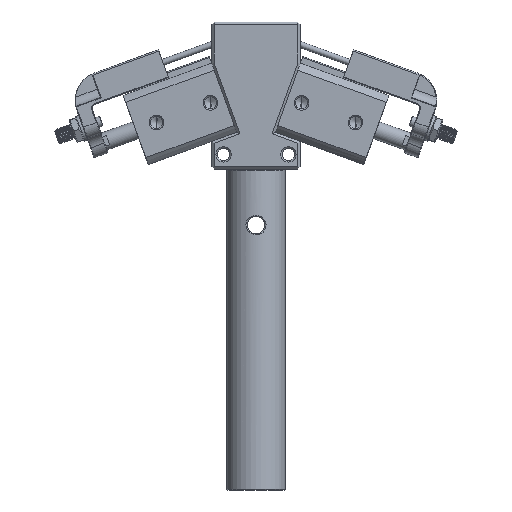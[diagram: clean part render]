
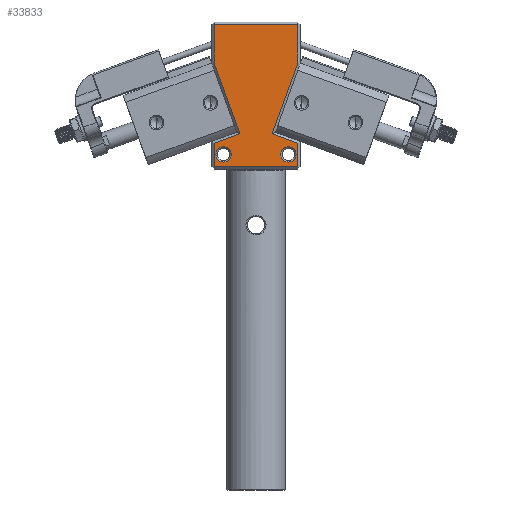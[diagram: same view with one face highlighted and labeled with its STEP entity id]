
A CAD part, front view. The second image highlights one B-rep face of the part: STEP entity #33833.
In plain terms, the highlighted planar face has unit normal (0, -1, 0).
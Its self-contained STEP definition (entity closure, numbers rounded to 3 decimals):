
#1068 = VECTOR ( 'NONE', #39566, 1000. ) ;
#1844 = VECTOR ( 'NONE', #56592, 1000. ) ;
#2571 = VECTOR ( 'NONE', #13268, 1000. ) ;
#3105 = ORIENTED_EDGE ( 'NONE', *, *, #18426, .T. ) ;
#3115 = CARTESIAN_POINT ( 'NONE',  ( -14.2, -12.5, -41.154 ) ) ;
#3577 = EDGE_CURVE ( 'NONE', #31848, #53647, #54467, .T. ) ;
#3593 = CARTESIAN_POINT ( 'NONE',  ( -5.475, -12.5, -37.978 ) ) ;
#3891 = CARTESIAN_POINT ( 'NONE',  ( -14.2, -12.5, -50. ) ) ;
#5165 = EDGE_CURVE ( 'NONE', #53647, #12958, #28874, .T. ) ;
#5204 = LINE ( 'NONE', #56790, #31365 ) ;
#5505 = ORIENTED_EDGE ( 'NONE', *, *, #57448, .T. ) ;
#6501 = CIRCLE ( 'NONE', #62557, 2.6 ) ;
#6613 = DIRECTION ( 'NONE',  ( 0., 1., 0. ) ) ;
#7139 = CARTESIAN_POINT ( 'NONE',  ( -37.429, -12.5, -50. ) ) ;
#7370 = VECTOR ( 'NONE', #61761, 1000. ) ;
#7520 = VERTEX_POINT ( 'NONE', #3593 ) ;
#8636 = CARTESIAN_POINT ( 'NONE',  ( 14.2, -12.5, -50. ) ) ;
#10694 = CARTESIAN_POINT ( 'NONE',  ( -14.2, -12.5, -14.005 ) ) ;
#11279 = VERTEX_POINT ( 'NONE', #31471 ) ;
#11301 = DIRECTION ( 'NONE',  ( 0., 1., 0. ) ) ;
#12421 = DIRECTION ( 'NONE',  ( 0., -1., 0. ) ) ;
#12958 = VERTEX_POINT ( 'NONE', #25554 ) ;
#13268 = DIRECTION ( 'NONE',  ( 1., 0., 0. ) ) ;
#13385 = LINE ( 'NONE', #13750, #39562 ) ;
#13750 = CARTESIAN_POINT ( 'NONE',  ( 5.475, -12.5, -37.978 ) ) ;
#14305 = VECTOR ( 'NONE', #45289, 1000. ) ;
#14839 = ORIENTED_EDGE ( 'NONE', *, *, #26948, .T. ) ;
#14870 = FACE_BOUND ( 'NONE', #29212, .T. ) ;
#16690 = CARTESIAN_POINT ( 'NONE',  ( 11., -12.5, -45. ) ) ;
#17423 = ORIENTED_EDGE ( 'NONE', *, *, #20105, .T. ) ;
#17933 = VERTEX_POINT ( 'NONE', #10694 ) ;
#18426 = EDGE_CURVE ( 'NONE', #65812, #56250, #35126, .T. ) ;
#19004 = ORIENTED_EDGE ( 'NONE', *, *, #32538, .T. ) ;
#19695 = ORIENTED_EDGE ( 'NONE', *, *, #5165, .T. ) ;
#20105 = EDGE_CURVE ( 'NONE', #26703, #51726, #60361, .T. ) ;
#21277 = LINE ( 'NONE', #56491, #7370 ) ;
#21965 = DIRECTION ( 'NONE',  ( 1., 0., 0. ) ) ;
#23276 = ORIENTED_EDGE ( 'NONE', *, *, #25495, .T. ) ;
#24730 = EDGE_CURVE ( 'NONE', #35020, #11279, #31187, .T. ) ;
#24924 = DIRECTION ( 'NONE',  ( 0., 0., -1. ) ) ;
#25057 = ORIENTED_EDGE ( 'NONE', *, *, #48093, .T. ) ;
#25256 = CARTESIAN_POINT ( 'NONE',  ( -14.2, -12.5, -50. ) ) ;
#25443 = CARTESIAN_POINT ( 'NONE',  ( -5.475, -12.5, -37.978 ) ) ;
#25495 = EDGE_CURVE ( 'NONE', #51726, #17933, #29617, .T. ) ;
#25554 = CARTESIAN_POINT ( 'NONE',  ( 5.475, -12.5, -37.978 ) ) ;
#26703 = VERTEX_POINT ( 'NONE', #58904 ) ;
#26948 = EDGE_CURVE ( 'NONE', #7520, #35020, #67170, .T. ) ;
#28316 = VERTEX_POINT ( 'NONE', #29003 ) ;
#28874 = LINE ( 'NONE', #50140, #1068 ) ;
#29003 = CARTESIAN_POINT ( 'NONE',  ( 8.4, -12.5, -45. ) ) ;
#29212 = EDGE_LOOP ( 'NONE', ( #61152, #55844 ) ) ;
#29617 = LINE ( 'NONE', #25256, #1844 ) ;
#29799 = ORIENTED_EDGE ( 'NONE', *, *, #24730, .T. ) ;
#30582 = DIRECTION ( 'NONE',  ( 0., 1., 0. ) ) ;
#30812 = ORIENTED_EDGE ( 'NONE', *, *, #3577, .T. ) ;
#31187 = LINE ( 'NONE', #3891, #41848 ) ;
#31365 = VECTOR ( 'NONE', #51550, 1000. ) ;
#31471 = CARTESIAN_POINT ( 'NONE',  ( -14.2, -12.5, -49.2 ) ) ;
#31848 = VERTEX_POINT ( 'NONE', #47743 ) ;
#32538 = EDGE_CURVE ( 'NONE', #12958, #40481, #13385, .T. ) ;
#33489 = AXIS2_PLACEMENT_3D ( 'NONE', #16690, #53336, #21965 ) ;
#33833 = ADVANCED_FACE ( 'NONE', ( #53389, #14870, #67307 ), #59063, .T. ) ;
#34337 = EDGE_CURVE ( 'NONE', #28316, #66519, #57483, .T. ) ;
#34360 = EDGE_CURVE ( 'NONE', #66519, #28316, #51731, .T. ) ;
#35020 = VERTEX_POINT ( 'NONE', #3115 ) ;
#35126 = CIRCLE ( 'NONE', #64253, 2.6 ) ;
#36562 = CARTESIAN_POINT ( 'NONE',  ( -14.2, -12.5, -0.8 ) ) ;
#36865 = EDGE_LOOP ( 'NONE', ( #25057, #3105 ) ) ;
#37485 = ORIENTED_EDGE ( 'NONE', *, *, #60318, .T. ) ;
#37953 = CARTESIAN_POINT ( 'NONE',  ( 11., -12.5, -45. ) ) ;
#39562 = VECTOR ( 'NONE', #50371, 1000. ) ;
#39566 = DIRECTION ( 'NONE',  ( -0.94, 0., 0.342 ) ) ;
#40481 = VERTEX_POINT ( 'NONE', #47597 ) ;
#40520 = CARTESIAN_POINT ( 'NONE',  ( -8.4, -12.5, -45. ) ) ;
#41848 = VECTOR ( 'NONE', #24924, 1000. ) ;
#42060 = AXIS2_PLACEMENT_3D ( 'NONE', #7139, #12421, #49059 ) ;
#42658 = CARTESIAN_POINT ( 'NONE',  ( -11., -12.5, -45. ) ) ;
#42976 = EDGE_CURVE ( 'NONE', #17933, #7520, #21277, .T. ) ;
#43281 = DIRECTION ( 'NONE',  ( 1., 0., 0. ) ) ;
#44345 = LINE ( 'NONE', #44649, #2571 ) ;
#44570 = DIRECTION ( 'NONE',  ( -1., 0., 0. ) ) ;
#44649 = CARTESIAN_POINT ( 'NONE',  ( -37.429, -12.5, -49.2 ) ) ;
#45289 = DIRECTION ( 'NONE',  ( 0., 0., 1. ) ) ;
#46249 = ORIENTED_EDGE ( 'NONE', *, *, #42976, .T. ) ;
#46462 = VECTOR ( 'NONE', #44570, 1000. ) ;
#47597 = CARTESIAN_POINT ( 'NONE',  ( 14.2, -12.5, -14.005 ) ) ;
#47743 = CARTESIAN_POINT ( 'NONE',  ( 14.2, -12.5, -49.2 ) ) ;
#47915 = DIRECTION ( 'NONE',  ( 1., 0., 0. ) ) ;
#48093 = EDGE_CURVE ( 'NONE', #56250, #65812, #6501, .T. ) ;
#49059 = DIRECTION ( 'NONE',  ( 1., 0., 0. ) ) ;
#49315 = CARTESIAN_POINT ( 'NONE',  ( 13.6, -12.5, -45. ) ) ;
#49618 = CARTESIAN_POINT ( 'NONE',  ( -13.6, -12.5, -45. ) ) ;
#50140 = CARTESIAN_POINT ( 'NONE',  ( 14.2, -12.5, -41.154 ) ) ;
#50371 = DIRECTION ( 'NONE',  ( 0.342, 0., 0.94 ) ) ;
#51550 = DIRECTION ( 'NONE',  ( 0., 0., 1. ) ) ;
#51726 = VERTEX_POINT ( 'NONE', #36562 ) ;
#51731 = CIRCLE ( 'NONE', #54575, 2.6 ) ;
#53252 = VECTOR ( 'NONE', #57021, 1000. ) ;
#53336 = DIRECTION ( 'NONE',  ( 0., 1., 0. ) ) ;
#53389 = FACE_OUTER_BOUND ( 'NONE', #54423, .T. ) ;
#53647 = VERTEX_POINT ( 'NONE', #58554 ) ;
#54423 = EDGE_LOOP ( 'NONE', ( #17423, #23276, #46249, #14839, #29799, #5505, #30812, #19695, #19004, #37485 ) ) ;
#54467 = LINE ( 'NONE', #8636, #14305 ) ;
#54575 = AXIS2_PLACEMENT_3D ( 'NONE', #37953, #6613, #43281 ) ;
#55844 = ORIENTED_EDGE ( 'NONE', *, *, #34337, .T. ) ;
#56250 = VERTEX_POINT ( 'NONE', #40520 ) ;
#56491 = CARTESIAN_POINT ( 'NONE',  ( -14.2, -12.5, -14.005 ) ) ;
#56592 = DIRECTION ( 'NONE',  ( 0., 0., -1. ) ) ;
#56790 = CARTESIAN_POINT ( 'NONE',  ( 14.2, -12.5, -50. ) ) ;
#57021 = DIRECTION ( 'NONE',  ( -0.94, 0., -0.342 ) ) ;
#57448 = EDGE_CURVE ( 'NONE', #11279, #31848, #44345, .T. ) ;
#57483 = CIRCLE ( 'NONE', #33489, 2.6 ) ;
#58554 = CARTESIAN_POINT ( 'NONE',  ( 14.2, -12.5, -41.154 ) ) ;
#58904 = CARTESIAN_POINT ( 'NONE',  ( 14.2, -12.5, -0.8 ) ) ;
#59063 = PLANE ( 'NONE',  #42060 ) ;
#60074 = CARTESIAN_POINT ( 'NONE',  ( -37.429, -12.5, -0.8 ) ) ;
#60318 = EDGE_CURVE ( 'NONE', #40481, #26703, #5204, .T. ) ;
#60361 = LINE ( 'NONE', #60074, #46462 ) ;
#61152 = ORIENTED_EDGE ( 'NONE', *, *, #34360, .T. ) ;
#61761 = DIRECTION ( 'NONE',  ( 0.342, 0., -0.94 ) ) ;
#61961 = CARTESIAN_POINT ( 'NONE',  ( -11., -12.5, -45. ) ) ;
#62557 = AXIS2_PLACEMENT_3D ( 'NONE', #61961, #30582, #67248 ) ;
#64253 = AXIS2_PLACEMENT_3D ( 'NONE', #42658, #11301, #47915 ) ;
#65812 = VERTEX_POINT ( 'NONE', #49618 ) ;
#66519 = VERTEX_POINT ( 'NONE', #49315 ) ;
#67170 = LINE ( 'NONE', #25443, #53252 ) ;
#67248 = DIRECTION ( 'NONE',  ( 1., 0., 0. ) ) ;
#67307 = FACE_BOUND ( 'NONE', #36865, .T. ) ;
